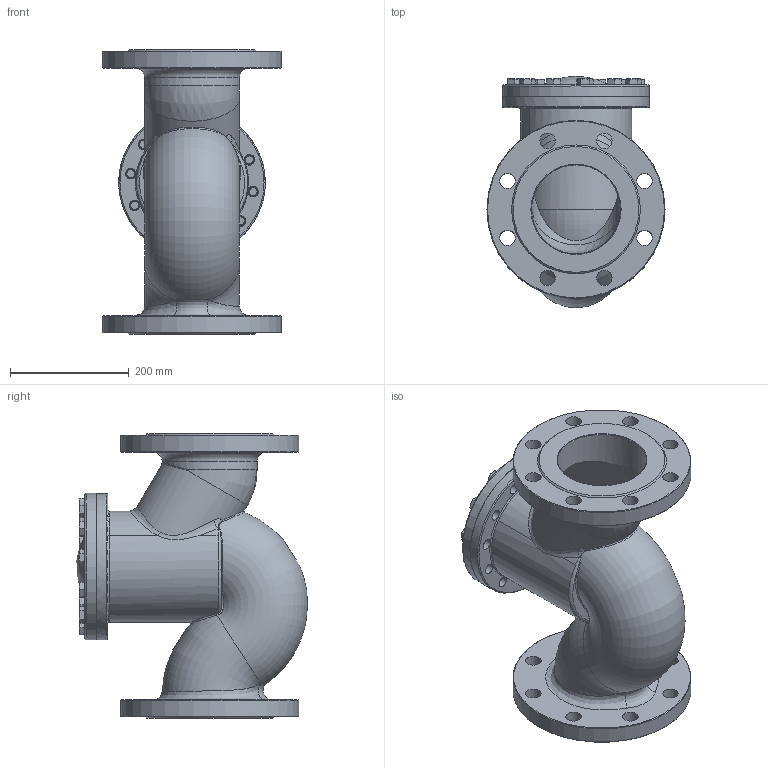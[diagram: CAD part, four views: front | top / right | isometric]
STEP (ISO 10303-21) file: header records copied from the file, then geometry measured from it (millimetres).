
FILE_DESCRIPTION(('STEP AP214'), '1');
FILE_NAME('VCR3131-F 孰囡囗 钺疣蝽 DN.ru 捏150 畜40', '', ('UNSPECIFIED'), ('UNSPECIFIED'), 'C3D Converter', 'C3D Toolkit', '');
FILE_SCHEMA(('AUTOMOTIVE_DESIGN { 1 0 10303 214 3 1 1}'));
Length unit declared in the file: millimetre
Products named in the file (1): VCR3131-F
Bounding box: 300 x 389.35 x 480 mm (x, y, z)
Volume: 11205395.3 mm3; surface area: 1099737.4 mm2
Topology: 1 solids, 1 shells, 478 faces, 1144 edges, 708 vertices
Faces by surface type: plane 239, cone 92, cylinder 89, bspline 43, torus 14, sphere 1
Full cylindrical faces by diameter (mm): 15 x1, 16 x12, 17.78 x24, 24 x12, 26 x16, 150 x3, 160 x2, 187.268 x1, 246.81 x2, 300 x2
Entity records: 28568 total; most frequent: CARTESIAN_POINT 16637, ORIENTED_EDGE 2076, DIRECTION 2035, EDGE_CURVE 1038, AXIS2_PLACEMENT_3D 858, VERTEX_POINT 705, EDGE_LOOP 675, FACE_BOUND 550
